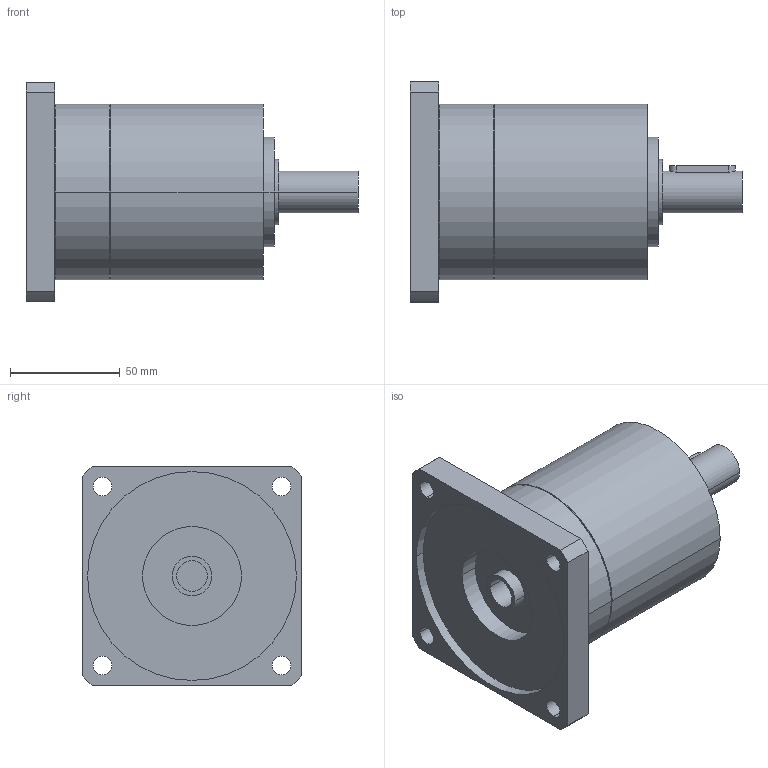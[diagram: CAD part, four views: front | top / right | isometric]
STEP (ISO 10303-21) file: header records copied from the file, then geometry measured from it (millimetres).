
FILE_DESCRIPTION(('CoCreate Modeling STEP Export'),'2;1');
FILE_NAME('GPR100_ig-3-4-5-6_19_B14_14_P07.stp','2014-08-26T10:07:05',(''),(''),'CoCreate Modeling STEP processor for AP214 (Solid Model)','CoCreate Modeling 16.00C 25-Feb-2009 (C) Parametric Technology GmbH','');
FILE_SCHEMA(('AUTOMOTIVE_DESIGN { 1 0 10303 214 1 1 1 1 }'));
Length unit declared in the file: millimetre
Products named in the file (2): GPR100_ig-3-4-5-6_19_B14_14_P07
Assembly tree (1 placements, depth 2):
  GPR100_ig-3-4-5-6_19_B14_14_P07
    GPR100_ig-3-4-5-6_19_B14_14_P07
Bounding box: 151 x 100 x 100 mm (x, y, z)
Volume: 575494.4 mm3; surface area: 58995.3 mm2
Topology: 1 solids, 1 shells, 70 faces, 189 edges, 133 vertices
Faces by surface type: cylinder 42, plane 22, cone 6
Entity records: 1944 total; most frequent: ORIENTED_EDGE 374, CARTESIAN_POINT 361, DIRECTION 262, EDGE_CURVE 187, VERTEX_POINT 133, AXIS2_PLACEMENT_3D 98, EDGE_LOOP 92, FACE_OUTER_BOUND 70
